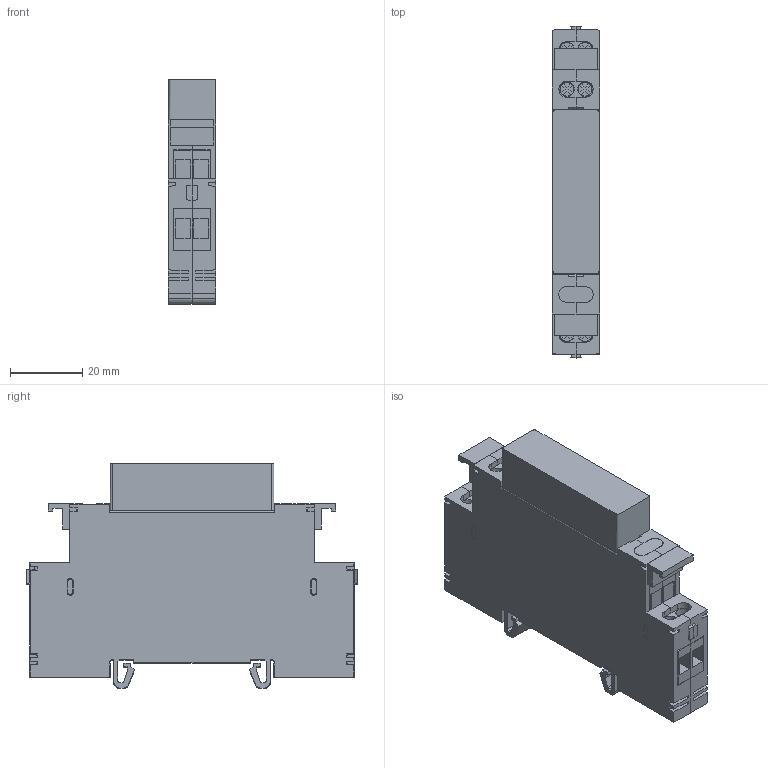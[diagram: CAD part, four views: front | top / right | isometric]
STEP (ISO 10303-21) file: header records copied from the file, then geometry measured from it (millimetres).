
FILE_DESCRIPTION (( 'STEP AP214' ), '1' );
FILE_NAME ('CRS1.STEP', '2024-04-17T13:03:30', ( '' ), ( '' ), 'SwSTEP 2.0', 'SolidWorks 2022', '' );
FILE_SCHEMA (( 'AUTOMOTIVE_DESIGN' ));
Length unit declared in the file: millimetre
Products named in the file (1): CRS1
Bounding box: 13 x 91.7 x 62.12 mm (x, y, z)
Volume: 54345.9 mm3; surface area: 16061.4 mm2
Topology: 1 solids, 3 shells, 537 faces, 1391 edges, 886 vertices
Faces by surface type: plane 420, cylinder 81, cone 20, torus 16
Entity records: 16418 total; most frequent: CARTESIAN_POINT 2920, ORIENTED_EDGE 2782, DIRECTION 2649, EDGE_CURVE 1391, LINE 1139, VECTOR 1139, VERTEX_POINT 886, AXIS2_PLACEMENT_3D 755
